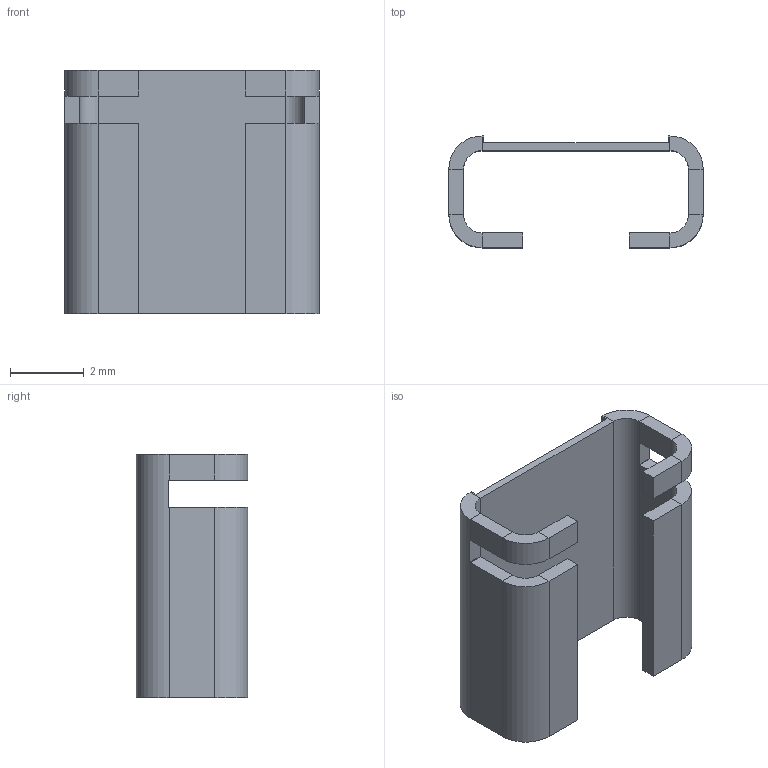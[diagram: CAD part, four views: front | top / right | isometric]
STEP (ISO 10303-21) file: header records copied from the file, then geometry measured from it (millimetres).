
FILE_DESCRIPTION (( 'STEP AP203' ), '1' );
FILE_NAME ('RSHJ2726-5.0m次-F曾磁踢.STEP', '2023-07-17T03:06:10', ( '' ), ( '' ), 'SwSTEP 2.0', 'SolidWorks 2020', '' );
FILE_SCHEMA (( 'CONFIG_CONTROL_DESIGN' ));
Length unit declared in the file: millimetre
Products named in the file (1): RSHJ2726-5.0m次-F曾磁踢
Bounding box: 6.9 x 3.03 x 6.6 mm (x, y, z)
Volume: 29.4 mm3; surface area: 199.4 mm2
Topology: 1 solids, 1 shells, 74 faces, 160 edges, 88 vertices
Faces by surface type: plane 62, cylinder 12
Entity records: 2005 total; most frequent: DIRECTION 342, CARTESIAN_POINT 323, ORIENTED_EDGE 320, EDGE_CURVE 160, LINE 128, VECTOR 128, AXIS2_PLACEMENT_3D 107, VERTEX_POINT 88
